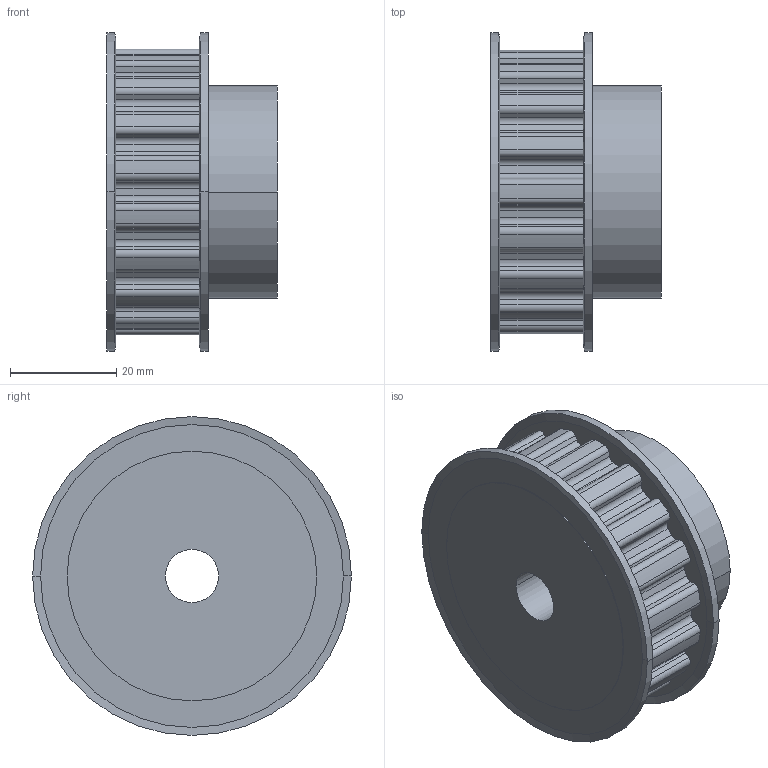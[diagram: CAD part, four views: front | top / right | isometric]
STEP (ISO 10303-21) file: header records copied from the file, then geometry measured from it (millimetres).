
FILE_DESCRIPTION( ( '' ), '1' );
FILE_NAME( 'C:/Users/Stangenbergd/Documents/CAD_Step/1/18211800.stp', '2021-10-19T10:35:01', ( '' ), ( '' ), ' ', ' ', ' ' );
FILE_SCHEMA( ( 'CONFIG_CONTROL_DESIGN' ) );
Length unit declared in the file: millimetre
Products named in the file (1): 1
Bounding box: 32.06 x 60 x 60 mm (x, y, z)
Volume: 55526.1 mm3; surface area: 13633 mm2
Topology: 1 solids, 1 shells, 171 faces, 484 edges, 320 vertices
Faces by surface type: cylinder 102, plane 61, cone 8
Entity records: 5674 total; most frequent: DIRECTION 1040, CARTESIAN_POINT 976, ORIENTED_EDGE 968, EDGE_CURVE 484, AXIS2_PLACEMENT_3D 384, VERTEX_POINT 320, LINE 272, VECTOR 272
